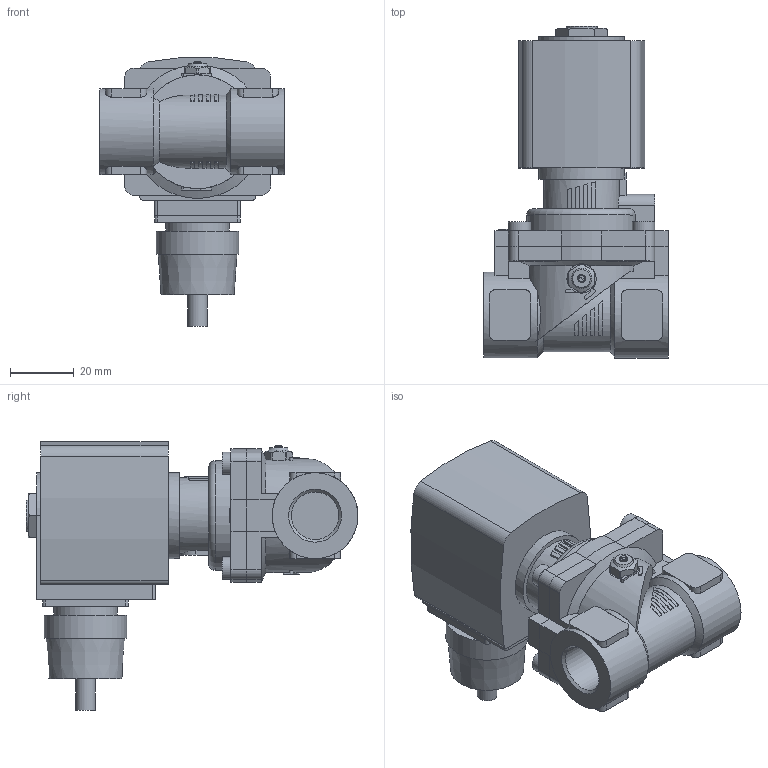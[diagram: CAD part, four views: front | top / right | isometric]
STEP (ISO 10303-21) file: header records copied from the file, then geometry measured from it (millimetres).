
FILE_DESCRIPTION(/* description */ ('STEP AP214'),/* implementation_level */ '2;1');
FILE_NAME(/* name */ '6281-349681-2_2-Way_Solenoid_Valve__Servo-assisted__General_Purpose',/* time_stamp */ '2024-06-17T16:32:47+02:00',/* author */ ('License CC BY-ND 4.0'),/* organization */ ('CADENAS'),/* preprocessor_version */ 'ST-DEVELOPER v19.3',/* originating_system */ 'PARTsolutions',/* authorisation */ ' ');
FILE_SCHEMA (('AUTOMOTIVE_DESIGN {1 0 10303 214 3 1 1}'));
Length unit declared in the file: millimetre
Products named in the file (4): 6281-349681-2/2-Way Solenoid Valve, Servo-assisted, General Purpose; 5281ev130MS2/2-Wege-Magnetventil mit Servomembran-Deckel 42 ; 6213-13G3/8MS-Gehaeuse-B1; AC10ex-6ATEXKabelPlan-Coil
Assembly tree (3 placements, depth 2):
  6281-349681-2/2-Way Solenoid Valve, Servo-assisted, General Purpose
    5281ev130MS2/2-Wege-Magnetventil mit Servomembran-Deckel 42 
    6213-13G3/8MS-Gehaeuse-B1
    AC10ex-6ATEXKabelPlan-Coil
Bounding box: 58 x 104.5 x 84.63 mm (x, y, z)
Volume: 154400 mm3; surface area: 32024.8 mm2
Topology: 3 solids, 3 shells, 345 faces, 905 edges, 593 vertices
Faces by surface type: plane 210, cylinder 114, cone 20, torus 1
Full cylindrical faces by diameter (mm): 6.2 x1, 7 x4, 9.2 x1, 9.74 x1, 14.95 x2, 20 x1, 26 x1, 27 x2
Entity records: 11656 total; most frequent: CARTESIAN_POINT 2157, DIRECTION 1774, ORIENTED_EDGE 1754, EDGE_CURVE 877, AXIS2_PLACEMENT_3D 642, VERTEX_POINT 584, LINE 490, VECTOR 490
